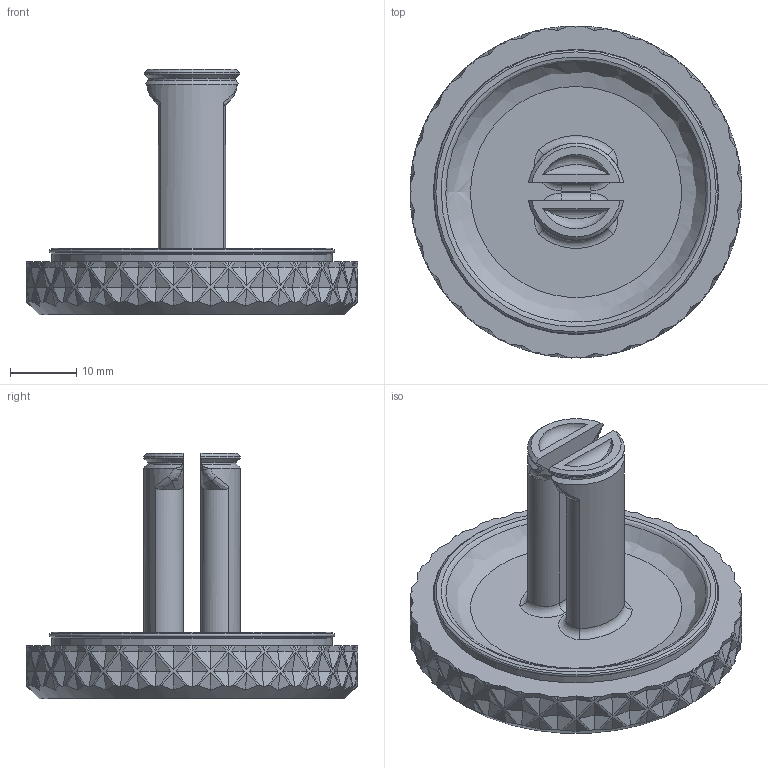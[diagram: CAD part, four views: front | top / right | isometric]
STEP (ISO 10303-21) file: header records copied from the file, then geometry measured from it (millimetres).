
FILE_DESCRIPTION(/* description */ (''),/* implementation_level */ '2;1');
FILE_NAME(/* name */ 'D:/3d print filer/STL filer/Cable Winder/STL/Version 4/Model 1/Step files/Model 1 Ekstra lid.step',/* time_stamp */ '2022-10-10T12:00:56+02:00',/* author */ (''),/* organization */ (''),/* preprocessor_version */ 'ST-DEVELOPER v19',/* originating_system */ 'Autodesk Translation Framework v11.7.0.108',/* authorisation */ '');
FILE_SCHEMA (('AUTOMOTIVE_DESIGN { 1 0 10303 214 3 1 1 }'));
Length unit declared in the file: millimetre
Products named in the file (1): Model 1 Ekstra lid
Bounding box: 50 x 50 x 37 mm (x, y, z)
Volume: 17767.3 mm3; surface area: 7159.9 mm2
Topology: 1 solids, 1 shells, 402 faces, 1111 edges, 717 vertices
Faces by surface type: plane 346, bspline 18, cylinder 16, cone 13, torus 9
Full cylindrical faces by diameter (mm): 42.2 x1, 50 x1
Entity records: 13994 total; most frequent: CARTESIAN_POINT 3783, ORIENTED_EDGE 2222, DIRECTION 2201, EDGE_CURVE 1111, AXIS2_PLACEMENT_3D 893, VERTEX_POINT 717, LINE 415, VECTOR 415
